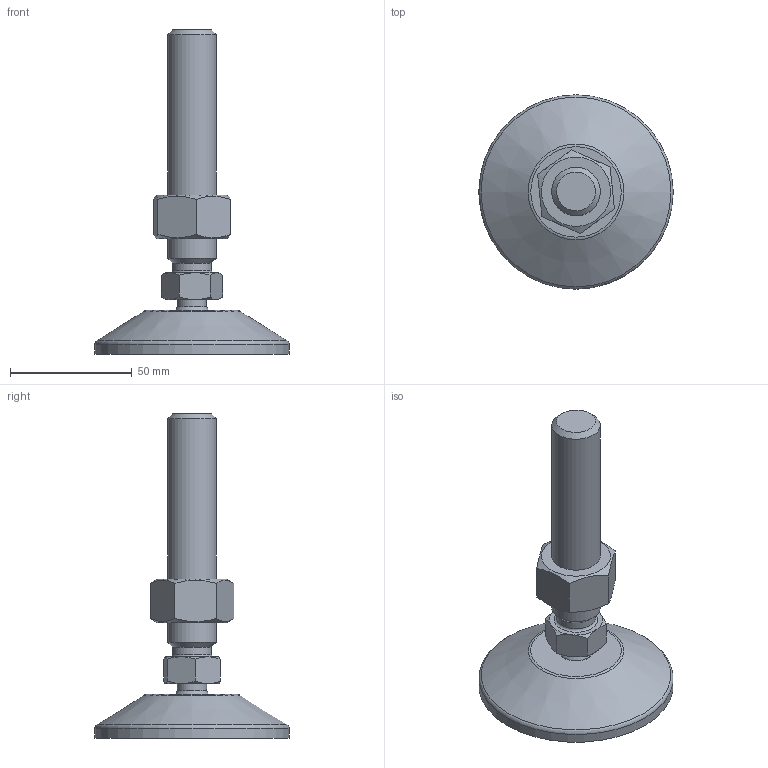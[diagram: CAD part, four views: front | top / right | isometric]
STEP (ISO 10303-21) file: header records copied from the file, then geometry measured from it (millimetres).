
FILE_DESCRIPTION(('STEP AP203'), '1');
FILE_NAME('栖闉罻', '', ('UNSPECIFIED'), ('UNSPECIFIED'), 'C3D Converter', 'C3D Toolkit', '');
FILE_SCHEMA(('CONFIG_CONTROL_DESIGN'));
Length unit declared in the file: millimetre
Products named in the file (4): A00020.120100; A00015.1080
Assembly tree (3 placements, depth 3):
  (unnamed)
    A00020.120100
      (unnamed)
    A00015.1080
Bounding box: 80 x 80 x 133.5 mm (x, y, z)
Volume: 82546.2 mm3; surface area: 28720.2 mm2
Topology: 3 solids, 3 shells, 190 faces, 480 edges, 317 vertices
Faces by surface type: plane 95, cylinder 58, cone 21, torus 14, sphere 2
Full cylindrical faces by diameter (mm): 4 x8, 12 x1, 14.3 x1, 15 x2, 15.5 x1, 16 x1, 17.294 x1, 20 x1, 69.3 x1, 80 x1
Entity records: 9514 total; most frequent: CARTESIAN_POINT 3336, DIRECTION 944, ORIENTED_EDGE 884, EDGE_CURVE 442, AXIS2_PLACEMENT_3D 378, VERTEX_POINT 315, EDGE_LOOP 247, FACE_BOUND 207
